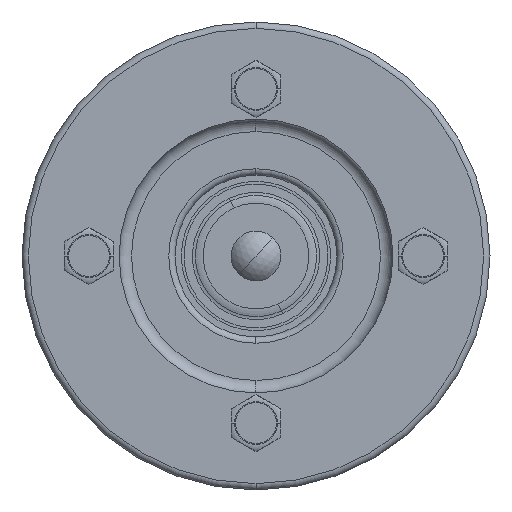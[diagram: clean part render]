
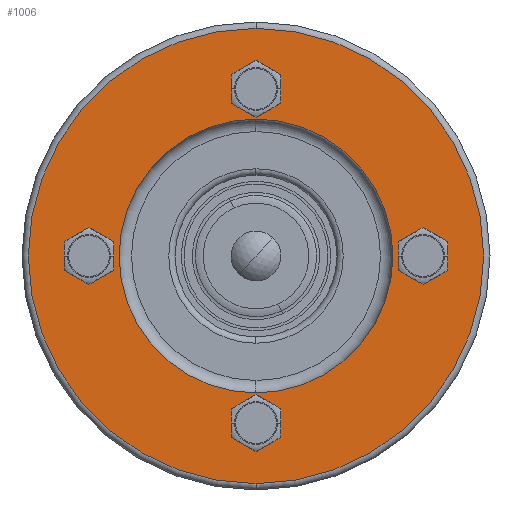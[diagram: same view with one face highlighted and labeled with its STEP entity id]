
A CAD part, front view. The second image highlights one B-rep face of the part: STEP entity #1006.
In plain terms, the highlighted planar face has unit normal (0, -1, 0).
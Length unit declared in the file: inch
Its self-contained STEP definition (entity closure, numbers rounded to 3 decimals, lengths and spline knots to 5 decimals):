
#54 = EDGE_CURVE ( 'NONE', #4065, #201, #6724, .T. ) ;
#140 = DIRECTION ( 'NONE',  ( 0., 0., -1. ) ) ;
#160 = EDGE_CURVE ( 'NONE', #834, #6444, #5194, .T. ) ;
#201 = VERTEX_POINT ( 'NONE', #2869 ) ;
#239 = DIRECTION ( 'NONE',  ( 0., -1., 0. ) ) ;
#359 = CARTESIAN_POINT ( 'NONE',  ( -0.839, -0.625, 0. ) ) ;
#397 = CIRCLE ( 'NONE', #2691, 1.143 ) ;
#461 = FACE_OUTER_BOUND ( 'NONE', #4296, .T. ) ;
#531 = CIRCLE ( 'NONE', #1398, 0.09375 ) ;
#623 = CARTESIAN_POINT ( 'NONE',  ( 0., -0.625, -0.6875 ) ) ;
#763 = ORIENTED_EDGE ( 'NONE', *, *, #3216, .T. ) ;
#834 = VERTEX_POINT ( 'NONE', #6167 ) ;
#878 = EDGE_CURVE ( 'NONE', #2925, #3915, #4006, .T. ) ;
#952 = AXIS2_PLACEMENT_3D ( 'NONE', #2971, #4098, #5577 ) ;
#980 = AXIS2_PLACEMENT_3D ( 'NONE', #3123, #1036, #2035 ) ;
#981 = DIRECTION ( 'NONE',  ( 0., 0., 1. ) ) ;
#990 = CARTESIAN_POINT ( 'NONE',  ( 0.839, -0.625, 0.09375 ) ) ;
#1005 = DIRECTION ( 'NONE',  ( 0., 0., -1. ) ) ;
#1006 = ADVANCED_FACE ( 'NONE', ( #4187, #1517, #6264, #1578, #461, #3531 ), #3607, .T. ) ;
#1029 = ORIENTED_EDGE ( 'NONE', *, *, #3062, .F. ) ;
#1036 = DIRECTION ( 'NONE',  ( 0., -1., 0. ) ) ;
#1045 = AXIS2_PLACEMENT_3D ( 'NONE', #4829, #1607, #3695 ) ;
#1055 = CARTESIAN_POINT ( 'NONE',  ( -0.839, -0.625, 0. ) ) ;
#1398 = AXIS2_PLACEMENT_3D ( 'NONE', #2471, #2368, #6474 ) ;
#1449 = ORIENTED_EDGE ( 'NONE', *, *, #6492, .T. ) ;
#1459 = CARTESIAN_POINT ( 'NONE',  ( 0., -0.625, 0. ) ) ;
#1517 = FACE_BOUND ( 'NONE', #2388, .T. ) ;
#1578 = FACE_BOUND ( 'NONE', #3571, .T. ) ;
#1607 = DIRECTION ( 'NONE',  ( 0., -1., 0. ) ) ;
#1621 = VERTEX_POINT ( 'NONE', #1941 ) ;
#1747 = CARTESIAN_POINT ( 'NONE',  ( -0.839, -0.625, -0.09375 ) ) ;
#1777 = CARTESIAN_POINT ( 'NONE',  ( 0., -0.625, -1.143 ) ) ;
#1873 = CARTESIAN_POINT ( 'NONE',  ( 0., -0.625, 0. ) ) ;
#1930 = DIRECTION ( 'NONE',  ( 0., -1., 0. ) ) ;
#1941 = CARTESIAN_POINT ( 'NONE',  ( 0., -0.625, 0.6875 ) ) ;
#1945 = CIRCLE ( 'NONE', #952, 0.6875 ) ;
#1973 = EDGE_CURVE ( 'NONE', #5331, #4834, #4566, .T. ) ;
#2035 = DIRECTION ( 'NONE',  ( 0., 0., -1. ) ) ;
#2343 = EDGE_CURVE ( 'NONE', #3915, #2925, #6425, .T. ) ;
#2368 = DIRECTION ( 'NONE',  ( 0., -1., 0. ) ) ;
#2388 = EDGE_LOOP ( 'NONE', ( #6765, #6574 ) ) ;
#2390 = EDGE_CURVE ( 'NONE', #201, #4065, #531, .T. ) ;
#2407 = DIRECTION ( 'NONE',  ( 0., -1., 0. ) ) ;
#2428 = DIRECTION ( 'NONE',  ( 0., -1., 0. ) ) ;
#2462 = CARTESIAN_POINT ( 'NONE',  ( 0.839, -0.625, -0.09375 ) ) ;
#2471 = CARTESIAN_POINT ( 'NONE',  ( 0., -0.625, 0.839 ) ) ;
#2643 = ORIENTED_EDGE ( 'NONE', *, *, #5188, .F. ) ;
#2691 = AXIS2_PLACEMENT_3D ( 'NONE', #1459, #2428, #4540 ) ;
#2715 = CARTESIAN_POINT ( 'NONE',  ( -0.839, -0.625, 0.09375 ) ) ;
#2793 = AXIS2_PLACEMENT_3D ( 'NONE', #4891, #239, #140 ) ;
#2815 = CARTESIAN_POINT ( 'NONE',  ( 0.839, -0.625, 0. ) ) ;
#2849 = DIRECTION ( 'NONE',  ( 0., 0., -1. ) ) ;
#2869 = CARTESIAN_POINT ( 'NONE',  ( 0., -0.625, 0.74525 ) ) ;
#2925 = VERTEX_POINT ( 'NONE', #990 ) ;
#2971 = CARTESIAN_POINT ( 'NONE',  ( 0., -0.625, 0. ) ) ;
#2977 = ORIENTED_EDGE ( 'NONE', *, *, #878, .F. ) ;
#3062 = EDGE_CURVE ( 'NONE', #4834, #5331, #4690, .T. ) ;
#3070 = ORIENTED_EDGE ( 'NONE', *, *, #1973, .F. ) ;
#3080 = DIRECTION ( 'NONE',  ( 0., 0., -1. ) ) ;
#3123 = CARTESIAN_POINT ( 'NONE',  ( 0., -0.625, 0. ) ) ;
#3203 = DIRECTION ( 'NONE',  ( 0., -1., 0. ) ) ;
#3216 = EDGE_CURVE ( 'NONE', #5186, #4325, #5998, .T. ) ;
#3355 = AXIS2_PLACEMENT_3D ( 'NONE', #5701, #5665, #1005 ) ;
#3531 = FACE_BOUND ( 'NONE', #4900, .T. ) ;
#3549 = AXIS2_PLACEMENT_3D ( 'NONE', #3655, #5688, #3080 ) ;
#3571 = EDGE_LOOP ( 'NONE', ( #3688, #2643 ) ) ;
#3607 = PLANE ( 'NONE',  #3355 ) ;
#3655 = CARTESIAN_POINT ( 'NONE',  ( 0., -0.625, 0.839 ) ) ;
#3688 = ORIENTED_EDGE ( 'NONE', *, *, #160, .F. ) ;
#3695 = DIRECTION ( 'NONE',  ( 0., 0., -1. ) ) ;
#3731 = CARTESIAN_POINT ( 'NONE',  ( 0., -0.625, 1.143 ) ) ;
#3915 = VERTEX_POINT ( 'NONE', #2462 ) ;
#3919 = DIRECTION ( 'NONE',  ( 0., 0., -1. ) ) ;
#3998 = CIRCLE ( 'NONE', #1045, 0.09375 ) ;
#4006 = CIRCLE ( 'NONE', #5649, 0.09375 ) ;
#4014 = DIRECTION ( 'NONE',  ( 0., 0., -1. ) ) ;
#4065 = VERTEX_POINT ( 'NONE', #5646 ) ;
#4098 = DIRECTION ( 'NONE',  ( 0., 1., 0. ) ) ;
#4187 = FACE_BOUND ( 'NONE', #4493, .T. ) ;
#4275 = DIRECTION ( 'NONE',  ( 0., 0., -1. ) ) ;
#4294 = EDGE_LOOP ( 'NONE', ( #3070, #1029 ) ) ;
#4296 = EDGE_LOOP ( 'NONE', ( #5231, #763 ) ) ;
#4325 = VERTEX_POINT ( 'NONE', #1777 ) ;
#4493 = EDGE_LOOP ( 'NONE', ( #5793, #2977 ) ) ;
#4540 = DIRECTION ( 'NONE',  ( 0., 0., -1. ) ) ;
#4566 = CIRCLE ( 'NONE', #5440, 0.09375 ) ;
#4690 = CIRCLE ( 'NONE', #6436, 0.09375 ) ;
#4774 = AXIS2_PLACEMENT_3D ( 'NONE', #1873, #5631, #981 ) ;
#4825 = ORIENTED_EDGE ( 'NONE', *, *, #5854, .T. ) ;
#4829 = CARTESIAN_POINT ( 'NONE',  ( 0., -0.625, -0.839 ) ) ;
#4832 = VERTEX_POINT ( 'NONE', #623 ) ;
#4834 = VERTEX_POINT ( 'NONE', #2715 ) ;
#4891 = CARTESIAN_POINT ( 'NONE',  ( 0., -0.625, -0.839 ) ) ;
#4900 = EDGE_LOOP ( 'NONE', ( #1449, #4825 ) ) ;
#5186 = VERTEX_POINT ( 'NONE', #3731 ) ;
#5188 = EDGE_CURVE ( 'NONE', #6444, #834, #3998, .T. ) ;
#5194 = CIRCLE ( 'NONE', #2793, 0.09375 ) ;
#5231 = ORIENTED_EDGE ( 'NONE', *, *, #5438, .T. ) ;
#5331 = VERTEX_POINT ( 'NONE', #1747 ) ;
#5438 = EDGE_CURVE ( 'NONE', #4325, #5186, #397, .T. ) ;
#5440 = AXIS2_PLACEMENT_3D ( 'NONE', #359, #1930, #3919 ) ;
#5446 = DIRECTION ( 'NONE',  ( 0., -1., 0. ) ) ;
#5447 = AXIS2_PLACEMENT_3D ( 'NONE', #5957, #2407, #4014 ) ;
#5577 = DIRECTION ( 'NONE',  ( 0., 0., 1. ) ) ;
#5631 = DIRECTION ( 'NONE',  ( 0., 1., 0. ) ) ;
#5646 = CARTESIAN_POINT ( 'NONE',  ( 0., -0.625, 0.93275 ) ) ;
#5649 = AXIS2_PLACEMENT_3D ( 'NONE', #2815, #5446, #2849 ) ;
#5665 = DIRECTION ( 'NONE',  ( 0., -1., 0. ) ) ;
#5688 = DIRECTION ( 'NONE',  ( 0., -1., 0. ) ) ;
#5701 = CARTESIAN_POINT ( 'NONE',  ( 0., -0.625, 0. ) ) ;
#5759 = CIRCLE ( 'NONE', #4774, 0.6875 ) ;
#5793 = ORIENTED_EDGE ( 'NONE', *, *, #2343, .F. ) ;
#5854 = EDGE_CURVE ( 'NONE', #4832, #1621, #5759, .T. ) ;
#5919 = CARTESIAN_POINT ( 'NONE',  ( 0., -0.625, -0.74525 ) ) ;
#5957 = CARTESIAN_POINT ( 'NONE',  ( 0.839, -0.625, 0. ) ) ;
#5998 = CIRCLE ( 'NONE', #980, 1.143 ) ;
#6167 = CARTESIAN_POINT ( 'NONE',  ( 0., -0.625, -0.93275 ) ) ;
#6264 = FACE_BOUND ( 'NONE', #4294, .T. ) ;
#6425 = CIRCLE ( 'NONE', #5447, 0.09375 ) ;
#6436 = AXIS2_PLACEMENT_3D ( 'NONE', #1055, #3203, #4275 ) ;
#6444 = VERTEX_POINT ( 'NONE', #5919 ) ;
#6474 = DIRECTION ( 'NONE',  ( 0., 0., -1. ) ) ;
#6492 = EDGE_CURVE ( 'NONE', #1621, #4832, #1945, .T. ) ;
#6574 = ORIENTED_EDGE ( 'NONE', *, *, #54, .F. ) ;
#6724 = CIRCLE ( 'NONE', #3549, 0.09375 ) ;
#6765 = ORIENTED_EDGE ( 'NONE', *, *, #2390, .F. ) ;
